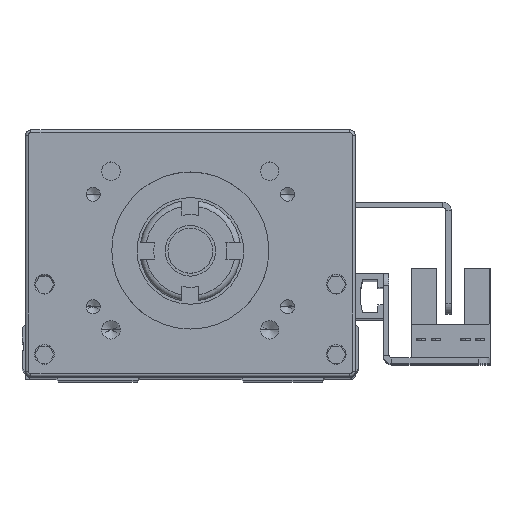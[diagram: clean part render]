
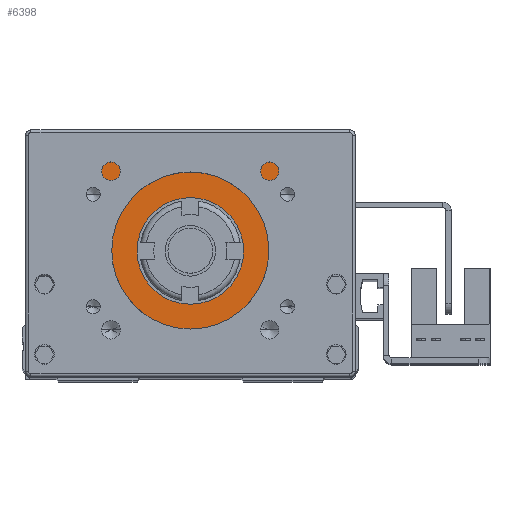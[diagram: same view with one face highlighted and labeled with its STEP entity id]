
A CAD part, top view. The second image highlights one B-rep face of the part: STEP entity #6398.
In plain terms, the highlighted planar face has unit normal (0, 0, 1).
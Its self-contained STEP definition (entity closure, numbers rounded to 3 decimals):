
#24 = PLANE ( 'NONE',  #46816 ) ;
#371 = CARTESIAN_POINT ( 'NONE',  ( 12.935, 12.398, 118.5 ) ) ;
#1403 = CARTESIAN_POINT ( 'NONE',  ( 52.335, 12.398, 118.5 ) ) ;
#1500 = CIRCLE ( 'NONE', #53035, 14. ) ;
#1514 = EDGE_CURVE ( 'NONE', #9519, #26978, #40649, .T. ) ;
#1552 = CARTESIAN_POINT ( 'NONE',  ( 32.335, 23.898, 118.5 ) ) ;
#1595 = DIRECTION ( 'NONE',  ( 0., 1., 0. ) ) ;
#1855 = VECTOR ( 'NONE', #7576, 1000. ) ;
#2645 = CARTESIAN_POINT ( 'NONE',  ( 22.835, 23.898, 118.5 ) ) ;
#2936 = VERTEX_POINT ( 'NONE', #47754 ) ;
#3222 = DIRECTION ( 'NONE',  ( -1., 0., 0. ) ) ;
#3423 = VERTEX_POINT ( 'NONE', #52118 ) ;
#3951 = VERTEX_POINT ( 'NONE', #27224 ) ;
#4790 = VERTEX_POINT ( 'NONE', #21714 ) ;
#5265 = DIRECTION ( 'NONE',  ( -1., 0., 0. ) ) ;
#6182 = CARTESIAN_POINT ( 'NONE',  ( 52.335, 44.398, 118.5 ) ) ;
#6398 = ADVANCED_FACE ( 'NONE', ( #13137, #7574 ), #24, .F. ) ;
#6986 = LINE ( 'NONE', #54501, #11815 ) ;
#7014 = ORIENTED_EDGE ( 'NONE', *, *, #50583, .T. ) ;
#7429 = CARTESIAN_POINT ( 'NONE',  ( 53.335, 44.398, 118.5 ) ) ;
#7574 = FACE_OUTER_BOUND ( 'NONE', #39341, .T. ) ;
#7576 = DIRECTION ( 'NONE',  ( 0., 1., 0. ) ) ;
#7711 = EDGE_CURVE ( 'NONE', #3951, #48145, #47624, .T. ) ;
#8333 = EDGE_CURVE ( 'NONE', #3423, #4790, #11047, .T. ) ;
#8585 = DIRECTION ( 'NONE',  ( -1., 0., 0. ) ) ;
#9184 = DIRECTION ( 'NONE',  ( -1., 0., 0. ) ) ;
#9519 = VERTEX_POINT ( 'NONE', #19451 ) ;
#10752 = EDGE_CURVE ( 'NONE', #31977, #19196, #26239, .T. ) ;
#11047 = CIRCLE ( 'NONE', #40655, 1. ) ;
#11815 = VECTOR ( 'NONE', #36858, 1000. ) ;
#13137 = FACE_BOUND ( 'NONE', #45020, .T. ) ;
#13585 = ORIENTED_EDGE ( 'NONE', *, *, #31921, .T. ) ;
#14658 = ORIENTED_EDGE ( 'NONE', *, *, #38878, .F. ) ;
#14784 = DIRECTION ( 'NONE',  ( 1., 0., 0. ) ) ;
#14811 = DIRECTION ( 'NONE',  ( 1., 0., 0. ) ) ;
#14986 = CARTESIAN_POINT ( 'NONE',  ( 52.335, 35.398, 118.5 ) ) ;
#16144 = CIRCLE ( 'NONE', #29982, 9.5 ) ;
#16753 = LINE ( 'NONE', #26584, #38023 ) ;
#18079 = VECTOR ( 'NONE', #34893, 1000. ) ;
#19196 = VERTEX_POINT ( 'NONE', #38759 ) ;
#19451 = CARTESIAN_POINT ( 'NONE',  ( 51.735, 12.398, 118.5 ) ) ;
#20428 = VECTOR ( 'NONE', #35897, 1000. ) ;
#21498 = ORIENTED_EDGE ( 'NONE', *, *, #10752, .T. ) ;
#21578 = ORIENTED_EDGE ( 'NONE', *, *, #28549, .T. ) ;
#21714 = CARTESIAN_POINT ( 'NONE',  ( 12.335, 44.398, 118.5 ) ) ;
#21963 = ORIENTED_EDGE ( 'NONE', *, *, #8333, .T. ) ;
#22174 = DIRECTION ( 'NONE',  ( 0., 1., 0. ) ) ;
#22925 = CARTESIAN_POINT ( 'NONE',  ( 12.335, 45.398, 118.5 ) ) ;
#23156 = LINE ( 'NONE', #51356, #1855 ) ;
#23657 = VERTEX_POINT ( 'NONE', #26325 ) ;
#24019 = ORIENTED_EDGE ( 'NONE', *, *, #29699, .F. ) ;
#24446 = CARTESIAN_POINT ( 'NONE',  ( 12.335, 12.398, 118.5 ) ) ;
#24818 = AXIS2_PLACEMENT_3D ( 'NONE', #1552, #36694, #14811 ) ;
#25465 = CARTESIAN_POINT ( 'NONE',  ( 12.335, 12.398, 118.5 ) ) ;
#25467 = ORIENTED_EDGE ( 'NONE', *, *, #39170, .F. ) ;
#25878 = CIRCLE ( 'NONE', #24818, 9.5 ) ;
#26063 = DIRECTION ( 'NONE',  ( 0., 0., 1. ) ) ;
#26132 = EDGE_CURVE ( 'NONE', #56192, #23657, #25878, .T. ) ;
#26239 = CIRCLE ( 'NONE', #41147, 1. ) ;
#26325 = CARTESIAN_POINT ( 'NONE',  ( 41.835, 23.898, 118.5 ) ) ;
#26584 = CARTESIAN_POINT ( 'NONE',  ( 51.735, 0., 118.5 ) ) ;
#26649 = CARTESIAN_POINT ( 'NONE',  ( 12.335, 12.398, 118.5 ) ) ;
#26978 = VERTEX_POINT ( 'NONE', #43512 ) ;
#27224 = CARTESIAN_POINT ( 'NONE',  ( 24.351, 12.398, 118.5 ) ) ;
#28484 = DIRECTION ( 'NONE',  ( -1., 0., 0. ) ) ;
#28549 = EDGE_CURVE ( 'NONE', #3951, #26978, #1500, .T. ) ;
#28844 = ORIENTED_EDGE ( 'NONE', *, *, #35162, .T. ) ;
#29699 = EDGE_CURVE ( 'NONE', #48145, #2936, #56155, .T. ) ;
#29982 = AXIS2_PLACEMENT_3D ( 'NONE', #41063, #36463, #14784 ) ;
#30084 = VERTEX_POINT ( 'NONE', #14986 ) ;
#31921 = EDGE_CURVE ( 'NONE', #30084, #31977, #50372, .T. ) ;
#31977 = VERTEX_POINT ( 'NONE', #6182 ) ;
#32719 = CARTESIAN_POINT ( 'NONE',  ( 51.735, 35.398, 118.5 ) ) ;
#33182 = VERTEX_POINT ( 'NONE', #32719 ) ;
#34050 = CARTESIAN_POINT ( 'NONE',  ( 12.335, 35.398, 118.5 ) ) ;
#34694 = DIRECTION ( 'NONE',  ( -1., 0., 0. ) ) ;
#34721 = CARTESIAN_POINT ( 'NONE',  ( 32.335, 23.898, 118.5 ) ) ;
#34893 = DIRECTION ( 'NONE',  ( -1., 0., 0. ) ) ;
#35161 = CARTESIAN_POINT ( 'NONE',  ( 12.935, 0., 118.5 ) ) ;
#35162 = EDGE_CURVE ( 'NONE', #19196, #3423, #42956, .T. ) ;
#35897 = DIRECTION ( 'NONE',  ( 0., 1., 0. ) ) ;
#36463 = DIRECTION ( 'NONE',  ( 0., 0., 1. ) ) ;
#36694 = DIRECTION ( 'NONE',  ( 0., 0., 1. ) ) ;
#36858 = DIRECTION ( 'NONE',  ( -1., 0., 0. ) ) ;
#38023 = VECTOR ( 'NONE', #22174, 1000. ) ;
#38561 = ORIENTED_EDGE ( 'NONE', *, *, #1514, .F. ) ;
#38759 = CARTESIAN_POINT ( 'NONE',  ( 53.335, 45.398, 118.5 ) ) ;
#38878 = EDGE_CURVE ( 'NONE', #23657, #56192, #16144, .T. ) ;
#39170 = EDGE_CURVE ( 'NONE', #2936, #46828, #56535, .T. ) ;
#39341 = EDGE_LOOP ( 'NONE', ( #50270, #21578, #38561, #7014, #41059, #13585, #21498, #28844, #21963, #50243, #25467, #24019 ) ) ;
#39855 = CARTESIAN_POINT ( 'NONE',  ( 11.335, 44.398, 118.5 ) ) ;
#40102 = ORIENTED_EDGE ( 'NONE', *, *, #26132, .F. ) ;
#40111 = VECTOR ( 'NONE', #1595, 1000. ) ;
#40649 = LINE ( 'NONE', #24446, #44765 ) ;
#40655 = AXIS2_PLACEMENT_3D ( 'NONE', #39855, #53292, #48650 ) ;
#41059 = ORIENTED_EDGE ( 'NONE', *, *, #44289, .F. ) ;
#41063 = CARTESIAN_POINT ( 'NONE',  ( 32.335, 23.898, 118.5 ) ) ;
#41147 = AXIS2_PLACEMENT_3D ( 'NONE', #7429, #47195, #3222 ) ;
#42187 = EDGE_CURVE ( 'NONE', #46828, #4790, #23156, .T. ) ;
#42956 = LINE ( 'NONE', #22925, #48445 ) ;
#43512 = CARTESIAN_POINT ( 'NONE',  ( 40.32, 12.398, 118.5 ) ) ;
#43514 = VECTOR ( 'NONE', #34694, 1000. ) ;
#44289 = EDGE_CURVE ( 'NONE', #30084, #33182, #6986, .T. ) ;
#44765 = VECTOR ( 'NONE', #28484, 1000. ) ;
#45020 = EDGE_LOOP ( 'NONE', ( #14658, #40102 ) ) ;
#46816 = AXIS2_PLACEMENT_3D ( 'NONE', #26649, #48190, #9184 ) ;
#46828 = VERTEX_POINT ( 'NONE', #34050 ) ;
#47195 = DIRECTION ( 'NONE',  ( 0., 0., -1. ) ) ;
#47624 = LINE ( 'NONE', #25465, #43514 ) ;
#47754 = CARTESIAN_POINT ( 'NONE',  ( 12.935, 35.398, 118.5 ) ) ;
#48145 = VERTEX_POINT ( 'NONE', #371 ) ;
#48190 = DIRECTION ( 'NONE',  ( 0., 0., -1. ) ) ;
#48445 = VECTOR ( 'NONE', #5265, 1000. ) ;
#48650 = DIRECTION ( 'NONE',  ( -1., 0., 0. ) ) ;
#50243 = ORIENTED_EDGE ( 'NONE', *, *, #42187, .F. ) ;
#50270 = ORIENTED_EDGE ( 'NONE', *, *, #7711, .F. ) ;
#50372 = LINE ( 'NONE', #1403, #40111 ) ;
#50583 = EDGE_CURVE ( 'NONE', #9519, #33182, #16753, .T. ) ;
#51356 = CARTESIAN_POINT ( 'NONE',  ( 12.335, 12.398, 118.5 ) ) ;
#52118 = CARTESIAN_POINT ( 'NONE',  ( 11.335, 45.398, 118.5 ) ) ;
#53035 = AXIS2_PLACEMENT_3D ( 'NONE', #34721, #26063, #8585 ) ;
#53148 = CARTESIAN_POINT ( 'NONE',  ( 12.935, 35.398, 118.5 ) ) ;
#53292 = DIRECTION ( 'NONE',  ( 0., 0., -1. ) ) ;
#54501 = CARTESIAN_POINT ( 'NONE',  ( 51.735, 35.398, 118.5 ) ) ;
#56155 = LINE ( 'NONE', #35161, #20428 ) ;
#56192 = VERTEX_POINT ( 'NONE', #2645 ) ;
#56535 = LINE ( 'NONE', #53148, #18079 ) ;
